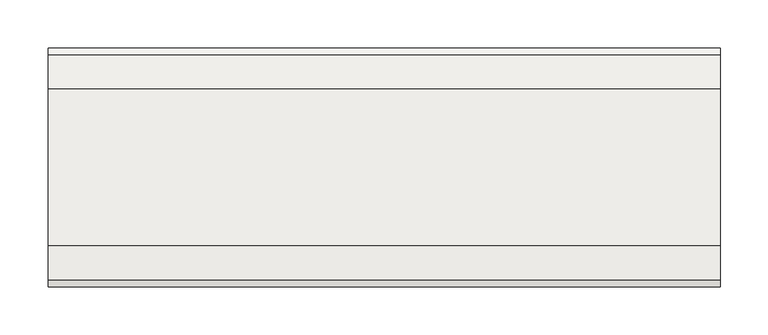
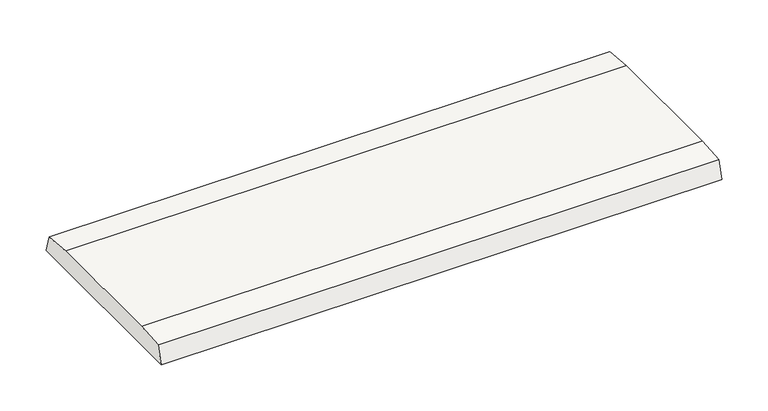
"""IFC4 building model written with IfcOpenShell, lengths in millimetres: slab geometry, ROSA GRES_245 CM_Colocación en plano : Rejilla 245 CM_Mistery_Grey_Anti-Slip."""

import ifcopenshell
import ifcopenshell.guid

model = None  # the IFC model being written
_history = None  # IfcOwnerHistory: only IFC2X3 demands one
_inside = {}  # id of a spatial element -> (the spatial element, [elements in it])
_under = {}  # id of a project, library or spatial element -> (it, [spatial elements below it])
_declared = {}  # id of a project -> (the project, [libraries it declares])
_typed = {}  # id of a type object -> (the type object, [elements of that type])
_made_of = {}  # id of a material, layer set ... -> (it, [elements and type objects made of it])


def new_model(schema):
    """Start an empty IFC model of exactly this schema.

    Asked for "IFC4X3", IfcOpenShell would pick the latest addendum, in which some entities
    have other attributes; the version numbers below select the first issue.
    IFC2X3 requires an IfcOwnerHistory on every rooted entity: one is made here for all.
    """
    global model, _history
    if schema == "IFC4X3":
        model = ifcopenshell.file(schema_version=(4, 3, 0, 0))
    else:
        model = ifcopenshell.file(schema=schema)
    _inside.clear()
    _under.clear()
    _declared.clear()
    _typed.clear()
    _made_of.clear()
    _history = None
    if model.schema == "IFC2X3":
        org = make("IfcOrganization", Name="unknown")
        user = make(
            "IfcPersonAndOrganization",
            ThePerson=make("IfcPerson", FamilyName="unknown"),
            TheOrganization=org,
        )
        app = make(
            "IfcApplication",
            ApplicationDeveloper=org,
            Version="unknown",
            ApplicationFullName="unknown",
            ApplicationIdentifier="unknown",
        )
        _history = make(
            "IfcOwnerHistory",
            OwningUser=user,
            OwningApplication=app,
            ChangeAction="ADDED",
            CreationDate=0,
        )
    return model


def make(cls, **values):
    """One entity of the class cls with the attributes given. An attribute that is None is left unset."""
    return model.create_entity(
        cls, **{name: value for name, value in values.items() if value is not None}
    )


def rooted(cls, **values):
    """An entity with a GlobalId (a new one), such as an element, a storey or a relation."""
    return make(cls, GlobalId=ifcopenshell.guid.new(), OwnerHistory=_history, **values)


def si_unit(unit_type, name, prefix=None):
    """IfcSIUnit, for example si_unit("LENGTHUNIT", "METRE", prefix="MILLI")."""
    return make("IfcSIUnit", UnitType=unit_type, Prefix=prefix, Name=name)


def assignment(units):
    """IfcUnitAssignment: the units of a project."""
    return None if units is None else make("IfcUnitAssignment", Units=units)


def point(xyz):
    """IfcCartesianPoint."""
    return None if xyz is None else make("IfcCartesianPoint", Coordinates=xyz)


def direction(xyz):
    """IfcDirection."""
    return None if xyz is None else make("IfcDirection", DirectionRatios=xyz)


def frame(location, z_axis=None, x_axis=None):
    """IfcAxis2Placement3D, a coordinate frame: its origin and axes. An axis left out is left unset."""
    return make(
        "IfcAxis2Placement3D",
        Location=point(location),
        Axis=direction(z_axis),
        RefDirection=direction(x_axis),
    )


def frame_2d(location, x_axis=None):
    """IfcAxis2Placement2D, a coordinate frame in the plane: its origin and x axis."""
    return make(
        "IfcAxis2Placement2D", Location=point(location), RefDirection=direction(x_axis)
    )


def origin():
    """The frame at (0, 0, 0) with its axes left unset."""
    return frame((0.0, 0.0, 0.0))


def place(relative_to, where):
    """IfcLocalPlacement: puts the frame where relative to a parent placement (None: the world)."""
    return make(
        "IfcLocalPlacement", PlacementRelTo=relative_to, RelativePlacement=where
    )


def context(
    kind, dimensions, precision=None, world=None, true_north=None, identifier=None
):
    """IfcGeometricRepresentationContext, for example the 3D "Model" context."""
    return make(
        "IfcGeometricRepresentationContext",
        ContextIdentifier=identifier,
        ContextType=kind,
        CoordinateSpaceDimension=dimensions,
        Precision=precision,
        WorldCoordinateSystem=world,
        TrueNorth=true_north,
    )


def project(units=None, contexts=None):
    """IfcProject with its units and contexts."""
    return rooted(
        "IfcProject",
        Name="project",
        RepresentationContexts=contexts,
        UnitsInContext=assignment(units),
    )


def spatial(cls, under=None, at=None, **own):
    """A site, building, storey or space (cls), placed at a placement, below another one or the project."""
    s = rooted(cls, ObjectPlacement=at, **own)
    if under is not None:
        _under.setdefault(under.id(), (under, []))[1].append(s)
    return s


def polyline(points):
    """IfcPolyline through the points."""
    return make("IfcPolyline", Points=[point(p) for p in points])


def circle_curve(where, radius):
    """IfcCircle in the frame where."""
    return make("IfcCircle", Position=where, Radius=radius)


def trimmed(basis, trim1, trim2, sense, master):
    """IfcTrimmedCurve: the piece of a basis curve between two trims."""
    return make(
        "IfcTrimmedCurve",
        BasisCurve=basis,
        Trim1=trim1,
        Trim2=trim2,
        SenseAgreement=sense,
        MasterRepresentation=master,
    )


def segment(curve, same_sense, transition):
    """IfcCompositeCurveSegment."""
    return make(
        "IfcCompositeCurveSegment",
        Transition=transition,
        SameSense=same_sense,
        ParentCurve=curve,
    )


def composite_curve(segments, self_intersect=None):
    """IfcCompositeCurve: segments joined end to end."""
    return make("IfcCompositeCurve", Segments=segments, SelfIntersect=self_intersect)


def outline(outer, holes=None, kind="AREA"):
    """IfcArbitraryClosedProfileDef: a profile drawn as a closed curve; with holes, ...WithVoids."""
    if holes is None:
        return make("IfcArbitraryClosedProfileDef", ProfileType=kind, OuterCurve=outer)
    return make(
        "IfcArbitraryProfileDefWithVoids",
        ProfileType=kind,
        OuterCurve=outer,
        InnerCurves=holes,
    )


def extrude(swept, where, along, depth):
    """IfcExtrudedAreaSolid: the profile swept, set in the frame where, extruded along a direction by depth."""
    return make(
        "IfcExtrudedAreaSolid",
        SweptArea=swept,
        Position=where,
        ExtrudedDirection=direction(along),
        Depth=depth,
    )


def shape(context_of_items, identifier, shape_type, items):
    """IfcShapeRepresentation: the items that make up one representation, for example the "Body"."""
    return make(
        "IfcShapeRepresentation",
        ContextOfItems=context_of_items,
        RepresentationIdentifier=identifier,
        RepresentationType=shape_type,
        Items=items,
    )


def source(mapping_origin, context_of_items, identifier, shape_type, items):
    """IfcRepresentationMap: a shape defined once, which mapped items show again and again."""
    return make(
        "IfcRepresentationMap",
        MappingOrigin=mapping_origin,
        MappedRepresentation=shape(context_of_items, identifier, shape_type, items),
    )


def transform(
    local_origin,
    x_axis=None,
    y_axis=None,
    z_axis=None,
    scale=None,
    scale2=None,
    scale3=None,
    uniform=True,
):
    """IfcCartesianTransformationOperator3D, or its non-uniform kind. x_axis, y_axis, z_axis: its Axis1, 2, 3."""
    if uniform:
        return make(
            "IfcCartesianTransformationOperator3D",
            Axis1=direction(x_axis),
            Axis2=direction(y_axis),
            LocalOrigin=point(local_origin),
            Scale=scale,
            Axis3=direction(z_axis),
        )
    return make(
        "IfcCartesianTransformationOperator3DnonUniform",
        Axis1=direction(x_axis),
        Axis2=direction(y_axis),
        LocalOrigin=point(local_origin),
        Scale=scale,
        Axis3=direction(z_axis),
        Scale2=scale2,
        Scale3=scale3,
    )


def mapped(mapping_source, mapping_target):
    """IfcMappedItem: shows the shape of a source again, moved by a transform."""
    return make(
        "IfcMappedItem", MappingSource=mapping_source, MappingTarget=mapping_target
    )


def made_of(thing, what):
    """Note that an element or type object is made of a material, layer set ...; save() writes the relation."""
    if what is not None:
        _made_of.setdefault(what.id(), (what, []))[1].append(thing)
    return thing


def element(
    cls,
    number,
    at=None,
    inside=None,
    cuts=None,
    type_object=None,
    material=None,
    context=None,
    identifier="Body",
    shape_type=None,
    held_by="IfcProductDefinitionShape",
    body=None,
    shapes=None,
    **own,
):
    """One element of the class cls, such as IfcWall. Its Tag is "e" and its number.

    at: its placement. inside: the storey or other place that contains it. cuts: it is an
    opening in that element (IfcRelVoidsElement). A single representation is given by context,
    identifier, shape_type and body (its items); several are given by shapes. held_by: the class
    of the entity that holds the representations. save() writes the other relations.
    """
    e = rooted(cls, Tag="e%d" % number, ObjectPlacement=at, **own)
    if body is not None:
        shapes = [shape(context, identifier, shape_type, body)]
    if shapes is not None:
        e.Representation = make(held_by, Representations=shapes)
    if inside is not None:
        _inside.setdefault(inside.id(), (inside, []))[1].append(e)
    if cuts is not None:
        rooted(
            "IfcRelVoidsElement", RelatingBuildingElement=cuts, RelatedOpeningElement=e
        )
    if type_object is not None:
        _typed.setdefault(type_object.id(), (type_object, []))[1].append(e)
    return made_of(e, material)


def aggregate(whole, parts):
    """IfcRelAggregates: a whole, such as a stair, and the parts it consists of."""
    return rooted("IfcRelAggregates", RelatingObject=whole, RelatedObjects=parts)


def save(model, path):
    """Write the relations noted so far, then the file.

    IfcRelAggregates (storeys below a building ...), IfcRelContainedInSpatialStructure (elements
    in a storey), IfcRelDefinesByType, IfcRelAssociatesMaterial and IfcRelDeclares: one each for
    every whole, place, type object, material and project.
    """
    for whole, parts in _under.values():
        aggregate(whole, parts)
    for where, things in _inside.values():
        rooted(
            "IfcRelContainedInSpatialStructure",
            RelatedElements=things,
            RelatingStructure=where,
        )
    for kind, things in _typed.values():
        rooted("IfcRelDefinesByType", RelatedObjects=things, RelatingType=kind)
    for what, things in _made_of.values():
        rooted("IfcRelAssociatesMaterial", RelatedObjects=things, RelatingMaterial=what)
    for by, libraries in _declared.values():
        rooted("IfcRelDeclares", RelatingContext=by, RelatedDefinitions=libraries)
    model.write(path)


def slab_2c108981(model_context):
    return source(origin(), model_context, "Body", "SweptSolid", [
        extrude(outline(composite_curve([segment(trimmed(circle_curve(frame_2d((-163.0982439, -720.2412375)), 721.556477), [point((-242.0848264, -3.0209998))], [point((-206.6448784, 0.0))], False, "CARTESIAN"), True, "CONTINUOUS"), segment(polyline([(-206.6448784, 0.0), (-42.7380732, 0.0)]), True, "CONTINUOUS"), segment(trimmed(circle_curve(frame_2d((-86.2847076, -720.2412375)), 721.556477), [point((-42.7380732, 0.0))], [point((-6.8503894, -3.0704499))], False, "CARTESIAN"), True, "CONTINUOUS"), segment(polyline([(-6.8503894, -3.0704499), (0.0, -25.0413492), (-248.9615625, -25.0413492), (-242.0848264, -3.0209998)]), True, "CONTINUOUS")], self_intersect=False)), frame((0.0, 0.0, 0.0), z_axis=(1.0, 0.0, 0.0), x_axis=(0.0, 1.0, 0.0)), (0.0, 0.0, 1.0), 700.0),
    ])


if __name__ == "__main__":
    model = new_model("IFC4")
    model_context = context("Model", 3, world=origin())
    ifc_project = project(units=[si_unit("LENGTHUNIT", "METRE", prefix="MILLI")], contexts=[model_context])
    site = spatial("IfcSite", under=ifc_project)
    building = spatial("IfcBuilding", under=site)
    placement = place(None, origin())
    slab_shape = slab_2c108981(model_context)
    element("IfcSlab", 1, ObjectType="ROSA GRES_245 CM_Colocación en plano : Rejilla 245 CM_Mistery_Grey_Anti-Slip", at=placement, inside=building, context=model_context, shape_type="MappedRepresentation", body=[
        mapped(slab_shape, transform((0.0, 0.0, 0.0), x_axis=(1.0, 0.0, 0.0), y_axis=(0.0, 1.0, 0.0), z_axis=(0.0, 0.0, 1.0))),
    ])
    save(model, "model.ifc")
